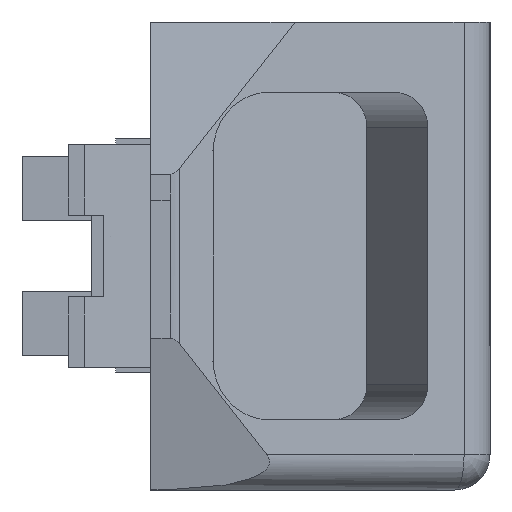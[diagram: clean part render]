
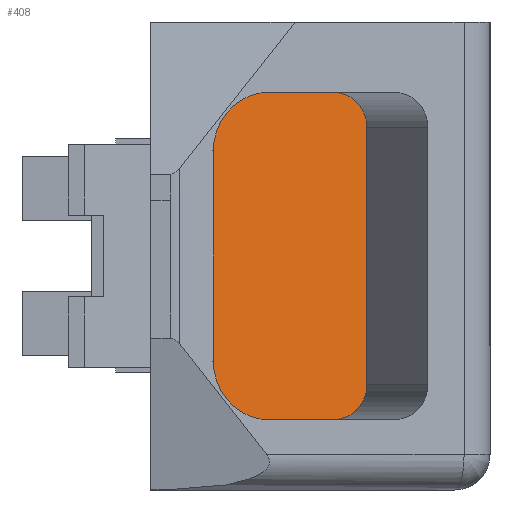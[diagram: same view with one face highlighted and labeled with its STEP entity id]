
A CAD part, front view. The second image highlights one B-rep face of the part: STEP entity #408.
In plain terms, the highlighted planar face has unit normal (0.261, -0.965, 0).
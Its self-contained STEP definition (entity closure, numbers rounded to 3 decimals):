
#408=ADVANCED_FACE('',(#948),#950,.T.);
#948=FACE_BOUND('',#949,.T.);
#949=EDGE_LOOP('',(#1472,#1473,#1474,#1475,#1476,#1477,#1478,#1479));
#950=PLANE('',#951);
#951=AXIS2_PLACEMENT_3D('',#952,#953,#954);
#952=CARTESIAN_POINT('',(38.292,-141.65,0.));
#953=DIRECTION('',(0.261,-0.965,0.));
#954=DIRECTION('',(0.965,0.261,0.));
#1472=ORIENTED_EDGE('',*,*,#1675,.F.);
#1473=ORIENTED_EDGE('',*,*,#1690,.T.);
#1474=ORIENTED_EDGE('',*,*,#1744,.T.);
#1475=ORIENTED_EDGE('',*,*,#1745,.T.);
#1476=ORIENTED_EDGE('',*,*,#1746,.T.);
#1477=ORIENTED_EDGE('',*,*,#1747,.T.);
#1478=ORIENTED_EDGE('',*,*,#1732,.T.);
#1479=ORIENTED_EDGE('',*,*,#1682,.T.);
#1675=EDGE_CURVE('',#1870,#1860,#1926,.F.);
#1682=EDGE_CURVE('',#1938,#1860,#1939,.T.);
#1690=EDGE_CURVE('',#1870,#1951,#1953,.T.);
#1732=EDGE_CURVE('',#2018,#1938,#2019,.T.);
#1744=EDGE_CURVE('',#1951,#2036,#2037,.T.);
#1745=EDGE_CURVE('',#2036,#2038,#2039,.T.);
#1746=EDGE_CURVE('',#2038,#2040,#2041,.T.);
#1747=EDGE_CURVE('',#2040,#2018,#2042,.T.);
#1860=VERTEX_POINT('',#2258);
#1870=VERTEX_POINT('',#2280);
#1926=LINE('',#2400,#2401);
#1938=VERTEX_POINT('',#2427);
#1939=LINE('',#2428,#2429);
#1951=VERTEX_POINT('',#2455);
#1953=LINE('',#2459,#2460);
#2018=VERTEX_POINT('',#2616);
#2019=LINE('',#2617,#2618);
#2036=VERTEX_POINT('',#2660);
#2037=LINE('',#2661,#2662);
#2038=VERTEX_POINT('',#2664);
#2039=CIRCLE('',#2665,3.);
#2040=VERTEX_POINT('',#2669);
#2041=LINE('',#2670,#2671);
#2042=CIRCLE('',#2673,3.);
#2258=CARTESIAN_POINT('',(-24.,-158.49,-10.5));
#2280=CARTESIAN_POINT('',(-24.,-158.49,-29.5));
#2400=CARTESIAN_POINT('',(-24.,-158.49,-10.5));
#2401=VECTOR('',#2402,1.);
#2402=DIRECTION('',(0.,0.,-1.));
#2427=CARTESIAN_POINT('',(-24.,-158.49,-6.));
#2428=CARTESIAN_POINT('',(-24.,-158.49,-6.));
#2429=VECTOR('',#2430,1.);
#2430=DIRECTION('',(0.,0.,-1.));
#2455=CARTESIAN_POINT('',(-24.,-158.49,-34.));
#2459=CARTESIAN_POINT('',(-24.,-158.49,-29.5));
#2460=VECTOR('',#2461,1.);
#2461=DIRECTION('',(0.,0.,-1.));
#2616=CARTESIAN_POINT('',(-13.423,-155.631,-6.));
#2617=CARTESIAN_POINT('',(-13.423,-155.631,-6.));
#2618=VECTOR('',#2619,1.);
#2619=DIRECTION('',(-0.965,-0.261,0.));
#2660=CARTESIAN_POINT('',(-13.423,-155.631,-34.));
#2661=CARTESIAN_POINT('',(-24.,-158.49,-34.));
#2662=VECTOR('',#2663,1.);
#2663=DIRECTION('',(0.965,0.261,0.));
#2664=CARTESIAN_POINT('',(-10.527,-154.848,-31.));
#2665=AXIS2_PLACEMENT_3D('',#2666,#2667,#2668);
#2666=CARTESIAN_POINT('',(-13.423,-155.631,-31.));
#2667=DIRECTION('',(0.261,-0.965,0.));
#2668=DIRECTION('',(0.,0.,-1.));
#2669=CARTESIAN_POINT('',(-10.527,-154.848,-9.));
#2670=CARTESIAN_POINT('',(-10.527,-154.848,-31.));
#2671=VECTOR('',#2672,1.);
#2672=DIRECTION('',(0.,0.,1.));
#2673=AXIS2_PLACEMENT_3D('',#2674,#2675,#2676);
#2674=CARTESIAN_POINT('',(-13.423,-155.631,-9.));
#2675=DIRECTION('',(0.261,-0.965,0.));
#2676=DIRECTION('',(0.965,0.261,0.));
